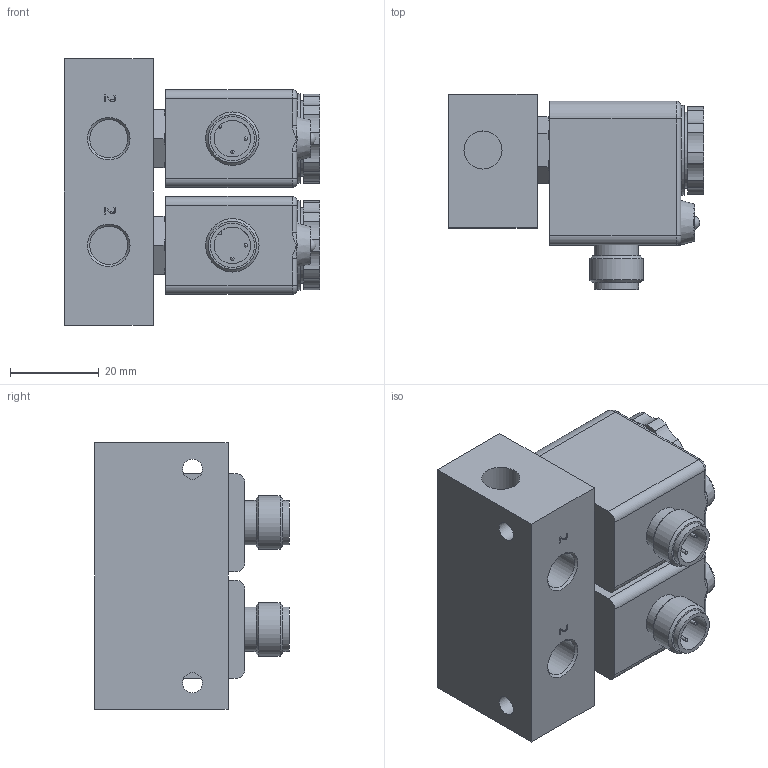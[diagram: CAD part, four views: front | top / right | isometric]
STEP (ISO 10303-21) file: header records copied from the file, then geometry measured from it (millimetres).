
FILE_DESCRIPTION (( 'STEP AP214' ), '1' );
FILE_NAME ('MS-18-310_2-HN-O12_Airtec.step', '2018-12-14T07:34:57', ( '' ), ( '' ), 'SwSTEP 2.0', 'SolidWorks 2010', '' );
FILE_SCHEMA (( 'AUTOMOTIVE_DESIGN' ));
Length unit declared in the file: millimetre
Products named in the file (3): Volumenkörper4; Volumenkörper1; MS-18-310_2-HN-O12_Airtec
Assembly tree (3 placements, depth 2):
  MS-18-310_2-HN-O12_Airtec
    Volumenkörper1  x2
    Volumenkörper4
Bounding box: 57.45 x 43.8 x 60 mm (x, y, z)
Volume: 78981.6 mm3; surface area: 24975.4 mm2
Topology: 3 solids, 5 shells, 468 faces, 1074 edges, 690 vertices
Faces by surface type: plane 186, cylinder 154, bspline 74, cone 34, torus 18, sphere 2
Full cylindrical faces by diameter (mm): 0.75 x4, 1.9 x2, 2 x8, 4.134 x2, 4.5 x2, 5 x4, 6.647 x2, 7.4 x2, 8 x4, 8.2 x4, 8.566 x4, 9 x2, 9.04 x4, 9.1 x2, 10 x4, 10.5 x2, 12 x2, 13.2 x2, 16 x2, 17.041 x2, 20.1 x2
Entity records: 13329 total; most frequent: CARTESIAN_POINT 3227, ORIENTED_EDGE 1552, DIRECTION 1506, EDGE_CURVE 776, AXIS2_PLACEMENT_3D 589, VERTEX_POINT 545, EDGE_LOOP 515, FACE_OUTER_BOUND 431
